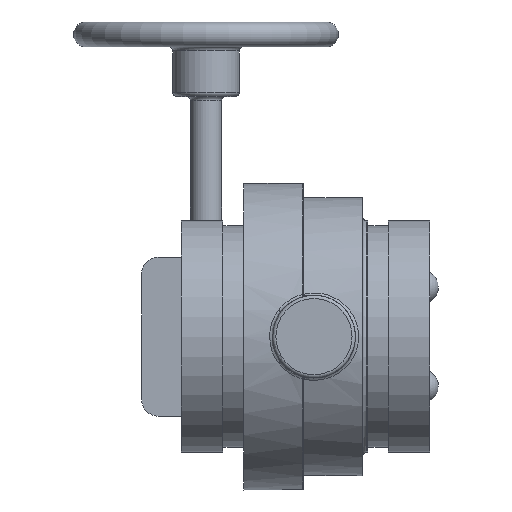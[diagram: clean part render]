
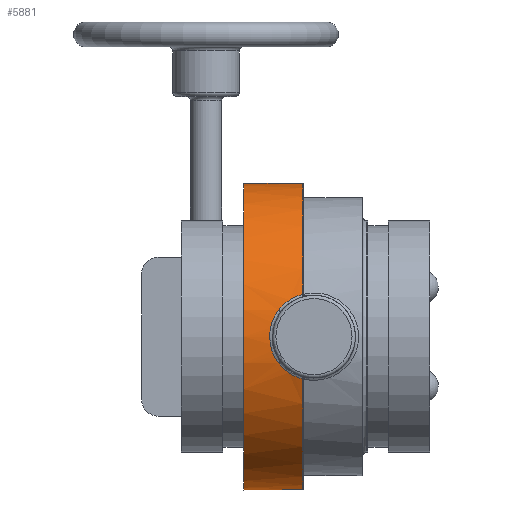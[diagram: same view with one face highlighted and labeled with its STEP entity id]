
A CAD part, front view. The second image highlights one B-rep face of the part: STEP entity #5881.
In plain terms, the highlighted cylindrical face has radius 58.801 mm (diameter 117.602 mm), a full revolution.
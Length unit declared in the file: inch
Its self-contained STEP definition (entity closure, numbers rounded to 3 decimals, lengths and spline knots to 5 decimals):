
#81=B_SPLINE_CURVE_WITH_KNOTS('',3,(#9707,#9708,#9709,#9710),
 .UNSPECIFIED.,.F.,.F.,(4,4),(-1.15621,0.),
 .UNSPECIFIED.);
#83=B_SPLINE_CURVE_WITH_KNOTS('',3,(#9754,#9755,#9756,#9757,#9758),
 .UNSPECIFIED.,.F.,.F.,(4,1,4),(-2.20766,-1.5769,-1.10381),
 .UNSPECIFIED.);
#84=B_SPLINE_CURVE_WITH_KNOTS('',3,(#9759,#9760,#9761,#9762,#9763,#9764),
 .UNSPECIFIED.,.F.,.F.,(4,1,1,4),(-1.10381,-0.94614,
-0.63076,0.),.UNSPECIFIED.);
#88=B_SPLINE_CURVE_WITH_KNOTS('',3,(#9804,#9805,#9806,#9807),
 .UNSPECIFIED.,.F.,.F.,(4,4),(-4.5303,-3.37408),
 .UNSPECIFIED.);
#93=B_SPLINE_CURVE_WITH_KNOTS('',3,(#9922,#9923,#9924,#9925,#9926),
 .UNSPECIFIED.,.F.,.F.,(4,1,4),(0.,0.1041,0.2429),
 .UNSPECIFIED.);
#94=B_SPLINE_CURVE_WITH_KNOTS('',3,(#9930,#9931,#9932,#9933,#9934),
 .UNSPECIFIED.,.F.,.F.,(4,1,4),(0.,0.1041,0.2429),
 .UNSPECIFIED.);
#397=FACE_OUTER_BOUND('',#766,.T.);
#766=EDGE_LOOP('',(#3864,#3865,#3866,#3867,#3868,#3869,#3870,#3871,#3872,
#3873,#3874,#3875,#3876,#3877,#3878));
#1179=LINE('',#9920,#1489);
#1180=LINE('',#9936,#1490);
#1181=LINE('',#9939,#1491);
#1489=VECTOR('',#7413,0.3937);
#1490=VECTOR('',#7416,0.3937);
#1491=VECTOR('',#7419,2.315);
#1809=CIRCLE('',#6397,2.315);
#1810=CIRCLE('',#6398,2.315);
#1811=CIRCLE('',#6399,2.315);
#1812=CIRCLE('',#6400,2.315);
#1813=CIRCLE('',#6401,2.315);
#2317=VERTEX_POINT('',#9672);
#2319=VERTEX_POINT('',#9705);
#2321=VERTEX_POINT('',#9751);
#2322=VERTEX_POINT('',#9753);
#2325=VERTEX_POINT('',#9802);
#2343=VERTEX_POINT('',#9917);
#2344=VERTEX_POINT('',#9919);
#2345=VERTEX_POINT('',#9921);
#2346=VERTEX_POINT('',#9927);
#2347=VERTEX_POINT('',#9929);
#2348=VERTEX_POINT('',#9935);
#2349=VERTEX_POINT('',#9938);
#2350=VERTEX_POINT('',#9940);
#2876=EDGE_CURVE('',#2319,#2317,#81,.T.);
#2879=EDGE_CURVE('',#2321,#2322,#83,.T.);
#2880=EDGE_CURVE('',#2322,#2319,#84,.T.);
#2885=EDGE_CURVE('',#2325,#2321,#88,.T.);
#2914=EDGE_CURVE('',#2343,#2325,#1809,.T.);
#2915=EDGE_CURVE('',#2344,#2343,#1179,.T.);
#2916=EDGE_CURVE('',#2345,#2344,#93,.T.);
#2917=EDGE_CURVE('',#2346,#2345,#1810,.T.);
#2918=EDGE_CURVE('',#2347,#2346,#94,.T.);
#2919=EDGE_CURVE('',#2348,#2347,#1180,.T.);
#2920=EDGE_CURVE('',#2317,#2348,#1811,.T.);
#2921=EDGE_CURVE('',#2322,#2349,#1181,.T.);
#2922=EDGE_CURVE('',#2349,#2350,#1812,.T.);
#2923=EDGE_CURVE('',#2350,#2349,#1813,.T.);
#3864=ORIENTED_EDGE('',*,*,#2885,.F.);
#3865=ORIENTED_EDGE('',*,*,#2914,.F.);
#3866=ORIENTED_EDGE('',*,*,#2915,.F.);
#3867=ORIENTED_EDGE('',*,*,#2916,.F.);
#3868=ORIENTED_EDGE('',*,*,#2917,.F.);
#3869=ORIENTED_EDGE('',*,*,#2918,.F.);
#3870=ORIENTED_EDGE('',*,*,#2919,.F.);
#3871=ORIENTED_EDGE('',*,*,#2920,.F.);
#3872=ORIENTED_EDGE('',*,*,#2876,.F.);
#3873=ORIENTED_EDGE('',*,*,#2880,.F.);
#3874=ORIENTED_EDGE('',*,*,#2921,.T.);
#3875=ORIENTED_EDGE('',*,*,#2922,.T.);
#3876=ORIENTED_EDGE('',*,*,#2923,.T.);
#3877=ORIENTED_EDGE('',*,*,#2921,.F.);
#3878=ORIENTED_EDGE('',*,*,#2879,.F.);
#5345=CYLINDRICAL_SURFACE('',#6396,2.315);
#5881=ADVANCED_FACE('',(#397),#5345,.T.);
#6396=AXIS2_PLACEMENT_3D('',#9916,#7409,#7410);
#6397=AXIS2_PLACEMENT_3D('',#9918,#7411,#7412);
#6398=AXIS2_PLACEMENT_3D('',#9928,#7414,#7415);
#6399=AXIS2_PLACEMENT_3D('',#9937,#7417,#7418);
#6400=AXIS2_PLACEMENT_3D('',#9941,#7420,#7421);
#6401=AXIS2_PLACEMENT_3D('',#9942,#7422,#7423);
#7409=DIRECTION('center_axis',(0.,0.,-1.));
#7410=DIRECTION('ref_axis',(0.,1.,0.));
#7411=DIRECTION('center_axis',(0.,0.,-1.));
#7412=DIRECTION('ref_axis',(0.,-1.,0.));
#7413=DIRECTION('',(0.,0.,-1.));
#7414=DIRECTION('center_axis',(0.,0.,-1.));
#7415=DIRECTION('ref_axis',(0.,1.,0.));
#7416=DIRECTION('',(0.,0.,1.));
#7417=DIRECTION('center_axis',(0.,0.,-1.));
#7418=DIRECTION('ref_axis',(0.,-1.,0.));
#7419=DIRECTION('',(0.,0.,1.));
#7420=DIRECTION('center_axis',(0.,0.,-1.));
#7421=DIRECTION('ref_axis',(1.,0.,0.));
#7422=DIRECTION('center_axis',(0.,0.,-1.));
#7423=DIRECTION('ref_axis',(1.,0.,0.));
#9672=CARTESIAN_POINT('',(-0.63892,-2.22509,0.172));
#9705=CARTESIAN_POINT('',(-0.3968,-2.28074,0.53972));
#9707=CARTESIAN_POINT('Ctrl Pts',(-0.3968,-2.28074,
0.53972));
#9708=CARTESIAN_POINT('Ctrl Pts',(-0.51443,-2.26028,0.44947));
#9709=CARTESIAN_POINT('Ctrl Pts',(-0.60117,-2.23592,
0.31833));
#9710=CARTESIAN_POINT('Ctrl Pts',(-0.63892,-2.22509,
0.172));
#9751=CARTESIAN_POINT('',(0.3968,-2.28074,0.53972));
#9753=CARTESIAN_POINT('',(0.,-2.315,0.66867));
#9754=CARTESIAN_POINT('Ctrl Pts',(0.3968,-2.28074,0.53972));
#9755=CARTESIAN_POINT('Ctrl Pts',(0.33263,-2.2919,0.58896));
#9756=CARTESIAN_POINT('Ctrl Pts',(0.2026,-2.30937,0.65073));
#9757=CARTESIAN_POINT('Ctrl Pts',(0.06078,-2.31494,
0.66869));
#9758=CARTESIAN_POINT('Ctrl Pts',(0.,-2.31497,
0.66864));
#9759=CARTESIAN_POINT('Ctrl Pts',(0.,-2.31497,
0.66864));
#9760=CARTESIAN_POINT('Ctrl Pts',(-0.02026,-2.31497,
0.66863));
#9761=CARTESIAN_POINT('Ctrl Pts',(-0.08104,-2.31421,
0.666));
#9762=CARTESIAN_POINT('Ctrl Pts',(-0.22121,-2.30679,
0.64206));
#9763=CARTESIAN_POINT('Ctrl Pts',(-0.33263,-2.2919,
0.58896));
#9764=CARTESIAN_POINT('Ctrl Pts',(-0.3968,-2.28074,
0.53972));
#9802=CARTESIAN_POINT('',(0.63892,-2.22509,0.172));
#9804=CARTESIAN_POINT('Ctrl Pts',(0.63892,-2.22509,0.172));
#9805=CARTESIAN_POINT('Ctrl Pts',(0.60117,-2.23592,0.31833));
#9806=CARTESIAN_POINT('Ctrl Pts',(0.51443,-2.26027,0.44946));
#9807=CARTESIAN_POINT('Ctrl Pts',(0.3968,-2.28074,0.53972));
#9916=CARTESIAN_POINT('Origin',(0.,0.,0.612));
#9917=CARTESIAN_POINT('',(0.58248,2.24052,0.172));
#9918=CARTESIAN_POINT('Origin',(0.,0.,0.172));
#9919=CARTESIAN_POINT('',(0.58248,2.24052,0.51));
#9920=CARTESIAN_POINT('',(0.58248,2.24052,0.612));
#9921=CARTESIAN_POINT('',(0.52274,2.25521,0.57));
#9922=CARTESIAN_POINT('Ctrl Pts',(0.52274,2.25521,0.57));
#9923=CARTESIAN_POINT('Ctrl Pts',(0.53599,2.25214,0.57));
#9924=CARTESIAN_POINT('Ctrl Pts',(0.56695,2.24462,0.55944));
#9925=CARTESIAN_POINT('Ctrl Pts',(0.58248,2.24052,0.52822));
#9926=CARTESIAN_POINT('Ctrl Pts',(0.58248,2.24052,0.51));
#9927=CARTESIAN_POINT('',(-0.52274,2.25521,0.57));
#9928=CARTESIAN_POINT('Origin',(0.,0.,0.57));
#9929=CARTESIAN_POINT('',(-0.58248,2.24052,0.51));
#9930=CARTESIAN_POINT('Ctrl Pts',(-0.58248,2.24052,0.51));
#9931=CARTESIAN_POINT('Ctrl Pts',(-0.58248,2.24052,0.52366));
#9932=CARTESIAN_POINT('Ctrl Pts',(-0.57109,2.24353,0.55542));
#9933=CARTESIAN_POINT('Ctrl Pts',(-0.54041,2.25111,0.57));
#9934=CARTESIAN_POINT('Ctrl Pts',(-0.52274,2.25521,0.57));
#9935=CARTESIAN_POINT('',(-0.58248,2.24052,0.172));
#9936=CARTESIAN_POINT('',(-0.58248,2.24052,0.612));
#9937=CARTESIAN_POINT('Origin',(0.,0.,0.172));
#9938=CARTESIAN_POINT('',(0.,-2.315,1.062));
#9939=CARTESIAN_POINT('',(0.,-2.315,0.612));
#9940=CARTESIAN_POINT('',(0.,2.315,1.062));
#9941=CARTESIAN_POINT('Origin',(0.,0.,1.062));
#9942=CARTESIAN_POINT('Origin',(0.,0.,1.062));
